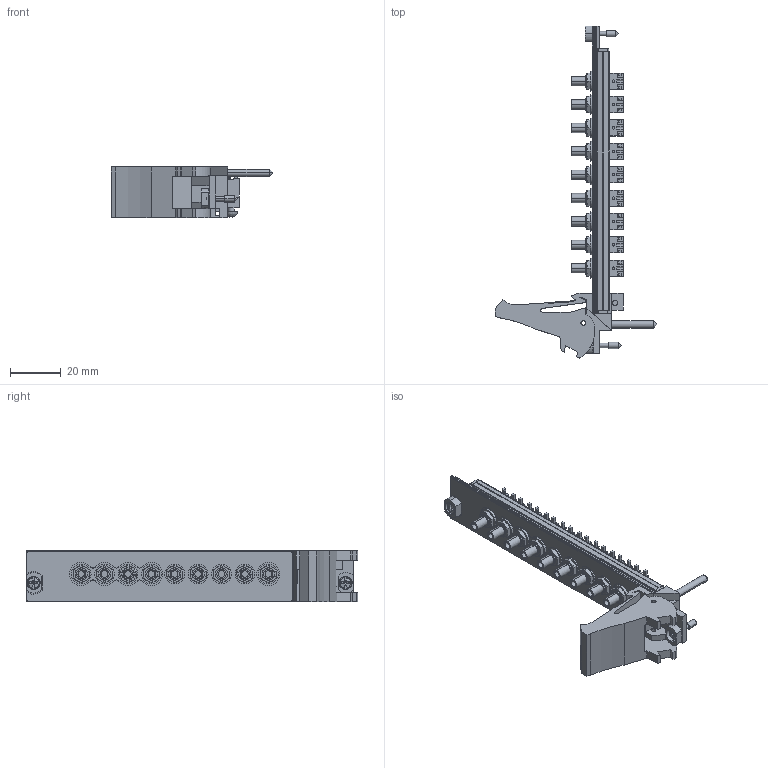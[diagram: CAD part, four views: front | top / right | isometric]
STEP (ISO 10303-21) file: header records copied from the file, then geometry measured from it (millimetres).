
FILE_DESCRIPTION((''),'2;1');
FILE_NAME('CU_PXI-5105','2009-11-13T',('jjorden'),(''),'PRO/ENGINEER BY PARAMETRIC TECHNOLOGY CORPORATION, 2006080','PRO/ENGINEER BY PARAMETRIC TECHNOLOGY CORPORATION, 2006080','');
FILE_SCHEMA(('CONFIG_CONTROL_DESIGN'));
Length unit declared in the file: inch
Products named in the file (1): CU_PXI-5105
Bounding box: 63.53 x 130.51 x 20.31 mm (x, y, z)
Volume: 20274.5 mm3; surface area: 21493.3 mm2
Topology: 7 solids, 7 shells, 1155 faces, 2908 edges, 1895 vertices
Faces by surface type: plane 796, cylinder 287, cone 52, sphere 8, torus 6, bspline 6
Entity records: 38983 total; most frequent: CARTESIAN_POINT 10813, ORIENTED_EDGE 5800, DIRECTION 5764, EDGE_CURVE 2900, VECTOR 2008, LINE 2008, VERTEX_POINT 1914, AXIS2_PLACEMENT_3D 1878
